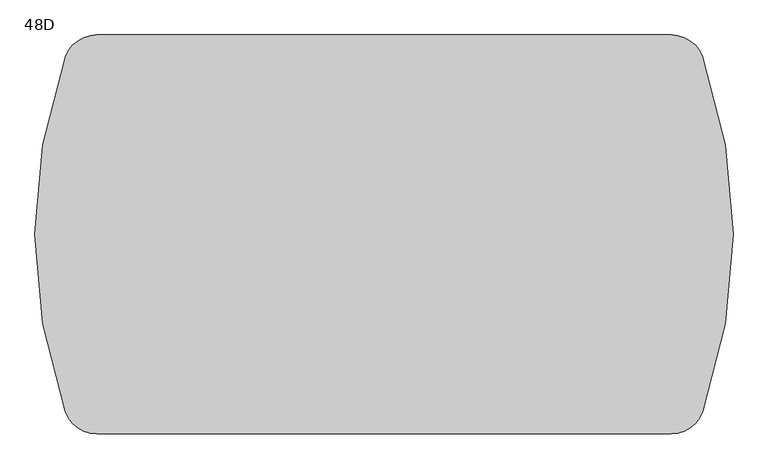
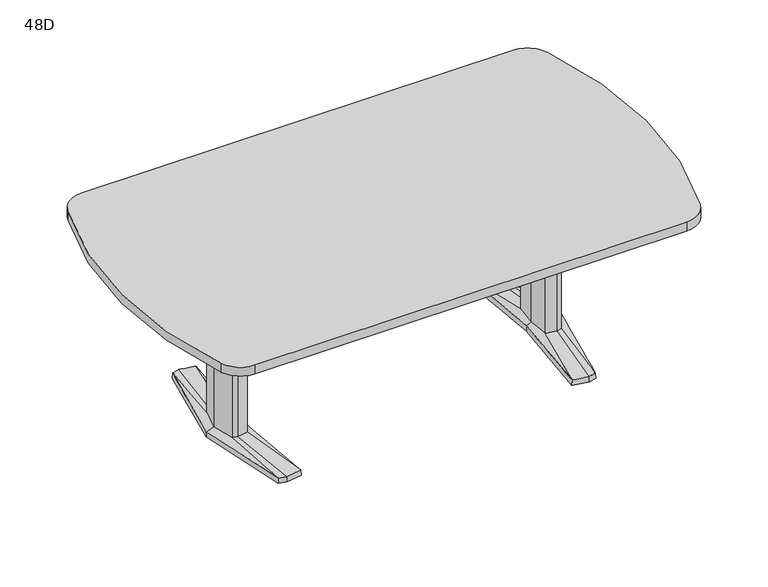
"""IFC4 building model written with IfcOpenShell, lengths in millimetres: furniture geometry, Coalesse_AM_Table_Conference_ETable2_SoftRadiused_84in_AluminiumBase : 48D."""

import ifcopenshell
import ifcopenshell.guid

model = None  # the IFC model being written
_history = None  # IfcOwnerHistory: only IFC2X3 demands one
_inside = {}  # id of a spatial element -> (the spatial element, [elements in it])
_under = {}  # id of a project, library or spatial element -> (it, [spatial elements below it])
_declared = {}  # id of a project -> (the project, [libraries it declares])
_typed = {}  # id of a type object -> (the type object, [elements of that type])
_made_of = {}  # id of a material, layer set ... -> (it, [elements and type objects made of it])


def new_model(schema):
    """Start an empty IFC model of exactly this schema.

    Asked for "IFC4X3", IfcOpenShell would pick the latest addendum, in which some entities
    have other attributes; the version numbers below select the first issue.
    IFC2X3 requires an IfcOwnerHistory on every rooted entity: one is made here for all.
    """
    global model, _history
    if schema == "IFC4X3":
        model = ifcopenshell.file(schema_version=(4, 3, 0, 0))
    else:
        model = ifcopenshell.file(schema=schema)
    _inside.clear()
    _under.clear()
    _declared.clear()
    _typed.clear()
    _made_of.clear()
    _history = None
    if model.schema == "IFC2X3":
        org = make("IfcOrganization", Name="unknown")
        user = make(
            "IfcPersonAndOrganization",
            ThePerson=make("IfcPerson", FamilyName="unknown"),
            TheOrganization=org,
        )
        app = make(
            "IfcApplication",
            ApplicationDeveloper=org,
            Version="unknown",
            ApplicationFullName="unknown",
            ApplicationIdentifier="unknown",
        )
        _history = make(
            "IfcOwnerHistory",
            OwningUser=user,
            OwningApplication=app,
            ChangeAction="ADDED",
            CreationDate=0,
        )
    return model


def make(cls, **values):
    """One entity of the class cls with the attributes given. An attribute that is None is left unset."""
    return model.create_entity(
        cls, **{name: value for name, value in values.items() if value is not None}
    )


def rooted(cls, **values):
    """An entity with a GlobalId (a new one), such as an element, a storey or a relation."""
    return make(cls, GlobalId=ifcopenshell.guid.new(), OwnerHistory=_history, **values)


def si_unit(unit_type, name, prefix=None):
    """IfcSIUnit, for example si_unit("LENGTHUNIT", "METRE", prefix="MILLI")."""
    return make("IfcSIUnit", UnitType=unit_type, Prefix=prefix, Name=name)


def assignment(units):
    """IfcUnitAssignment: the units of a project."""
    return None if units is None else make("IfcUnitAssignment", Units=units)


def point(xyz):
    """IfcCartesianPoint."""
    return None if xyz is None else make("IfcCartesianPoint", Coordinates=xyz)


def direction(xyz):
    """IfcDirection."""
    return None if xyz is None else make("IfcDirection", DirectionRatios=xyz)


def frame(location, z_axis=None, x_axis=None):
    """IfcAxis2Placement3D, a coordinate frame: its origin and axes. An axis left out is left unset."""
    return make(
        "IfcAxis2Placement3D",
        Location=point(location),
        Axis=direction(z_axis),
        RefDirection=direction(x_axis),
    )


def frame_2d(location, x_axis=None):
    """IfcAxis2Placement2D, a coordinate frame in the plane: its origin and x axis."""
    return make(
        "IfcAxis2Placement2D", Location=point(location), RefDirection=direction(x_axis)
    )


def origin():
    """The frame at (0, 0, 0) with its axes left unset."""
    return frame((0.0, 0.0, 0.0))


def place(relative_to, where):
    """IfcLocalPlacement: puts the frame where relative to a parent placement (None: the world)."""
    return make(
        "IfcLocalPlacement", PlacementRelTo=relative_to, RelativePlacement=where
    )


def context(
    kind, dimensions, precision=None, world=None, true_north=None, identifier=None
):
    """IfcGeometricRepresentationContext, for example the 3D "Model" context."""
    return make(
        "IfcGeometricRepresentationContext",
        ContextIdentifier=identifier,
        ContextType=kind,
        CoordinateSpaceDimension=dimensions,
        Precision=precision,
        WorldCoordinateSystem=world,
        TrueNorth=true_north,
    )


def project(units=None, contexts=None):
    """IfcProject with its units and contexts."""
    return rooted(
        "IfcProject",
        Name="project",
        RepresentationContexts=contexts,
        UnitsInContext=assignment(units),
    )


def spatial(cls, under=None, at=None, **own):
    """A site, building, storey or space (cls), placed at a placement, below another one or the project."""
    s = rooted(cls, ObjectPlacement=at, **own)
    if under is not None:
        _under.setdefault(under.id(), (under, []))[1].append(s)
    return s


def polyline(points):
    """IfcPolyline through the points."""
    return make("IfcPolyline", Points=[point(p) for p in points])


def circle_curve(where, radius):
    """IfcCircle in the frame where."""
    return make("IfcCircle", Position=where, Radius=radius)


def trimmed(basis, trim1, trim2, sense, master):
    """IfcTrimmedCurve: the piece of a basis curve between two trims."""
    return make(
        "IfcTrimmedCurve",
        BasisCurve=basis,
        Trim1=trim1,
        Trim2=trim2,
        SenseAgreement=sense,
        MasterRepresentation=master,
    )


def segment(curve, same_sense, transition):
    """IfcCompositeCurveSegment."""
    return make(
        "IfcCompositeCurveSegment",
        Transition=transition,
        SameSense=same_sense,
        ParentCurve=curve,
    )


def composite_curve(segments, self_intersect=None):
    """IfcCompositeCurve: segments joined end to end."""
    return make("IfcCompositeCurve", Segments=segments, SelfIntersect=self_intersect)


def outline(outer, holes=None, kind="AREA"):
    """IfcArbitraryClosedProfileDef: a profile drawn as a closed curve; with holes, ...WithVoids."""
    if holes is None:
        return make("IfcArbitraryClosedProfileDef", ProfileType=kind, OuterCurve=outer)
    return make(
        "IfcArbitraryProfileDefWithVoids",
        ProfileType=kind,
        OuterCurve=outer,
        InnerCurves=holes,
    )


def extrude(swept, where, along, depth):
    """IfcExtrudedAreaSolid: the profile swept, set in the frame where, extruded along a direction by depth."""
    return make(
        "IfcExtrudedAreaSolid",
        SweptArea=swept,
        Position=where,
        ExtrudedDirection=direction(along),
        Depth=depth,
    )


def shape(context_of_items, identifier, shape_type, items):
    """IfcShapeRepresentation: the items that make up one representation, for example the "Body"."""
    return make(
        "IfcShapeRepresentation",
        ContextOfItems=context_of_items,
        RepresentationIdentifier=identifier,
        RepresentationType=shape_type,
        Items=items,
    )


def source(mapping_origin, context_of_items, identifier, shape_type, items):
    """IfcRepresentationMap: a shape defined once, which mapped items show again and again."""
    return make(
        "IfcRepresentationMap",
        MappingOrigin=mapping_origin,
        MappedRepresentation=shape(context_of_items, identifier, shape_type, items),
    )


def transform(
    local_origin,
    x_axis=None,
    y_axis=None,
    z_axis=None,
    scale=None,
    scale2=None,
    scale3=None,
    uniform=True,
):
    """IfcCartesianTransformationOperator3D, or its non-uniform kind. x_axis, y_axis, z_axis: its Axis1, 2, 3."""
    if uniform:
        return make(
            "IfcCartesianTransformationOperator3D",
            Axis1=direction(x_axis),
            Axis2=direction(y_axis),
            LocalOrigin=point(local_origin),
            Scale=scale,
            Axis3=direction(z_axis),
        )
    return make(
        "IfcCartesianTransformationOperator3DnonUniform",
        Axis1=direction(x_axis),
        Axis2=direction(y_axis),
        LocalOrigin=point(local_origin),
        Scale=scale,
        Axis3=direction(z_axis),
        Scale2=scale2,
        Scale3=scale3,
    )


def mapped(mapping_source, mapping_target):
    """IfcMappedItem: shows the shape of a source again, moved by a transform."""
    return make(
        "IfcMappedItem", MappingSource=mapping_source, MappingTarget=mapping_target
    )


def made_of(thing, what):
    """Note that an element or type object is made of a material, layer set ...; save() writes the relation."""
    if what is not None:
        _made_of.setdefault(what.id(), (what, []))[1].append(thing)
    return thing


def element(
    cls,
    number,
    at=None,
    inside=None,
    cuts=None,
    type_object=None,
    material=None,
    context=None,
    identifier="Body",
    shape_type=None,
    held_by="IfcProductDefinitionShape",
    body=None,
    shapes=None,
    **own,
):
    """One element of the class cls, such as IfcWall. Its Tag is "e" and its number.

    at: its placement. inside: the storey or other place that contains it. cuts: it is an
    opening in that element (IfcRelVoidsElement). A single representation is given by context,
    identifier, shape_type and body (its items); several are given by shapes. held_by: the class
    of the entity that holds the representations. save() writes the other relations.
    """
    e = rooted(cls, Tag="e%d" % number, ObjectPlacement=at, **own)
    if body is not None:
        shapes = [shape(context, identifier, shape_type, body)]
    if shapes is not None:
        e.Representation = make(held_by, Representations=shapes)
    if inside is not None:
        _inside.setdefault(inside.id(), (inside, []))[1].append(e)
    if cuts is not None:
        rooted(
            "IfcRelVoidsElement", RelatingBuildingElement=cuts, RelatedOpeningElement=e
        )
    if type_object is not None:
        _typed.setdefault(type_object.id(), (type_object, []))[1].append(e)
    return made_of(e, material)


def aggregate(whole, parts):
    """IfcRelAggregates: a whole, such as a stair, and the parts it consists of."""
    return rooted("IfcRelAggregates", RelatingObject=whole, RelatedObjects=parts)


def save(model, path):
    """Write the relations noted so far, then the file.

    IfcRelAggregates (storeys below a building ...), IfcRelContainedInSpatialStructure (elements
    in a storey), IfcRelDefinesByType, IfcRelAssociatesMaterial and IfcRelDeclares: one each for
    every whole, place, type object, material and project.
    """
    for whole, parts in _under.values():
        aggregate(whole, parts)
    for where, things in _inside.values():
        rooted(
            "IfcRelContainedInSpatialStructure",
            RelatedElements=things,
            RelatingStructure=where,
        )
    for kind, things in _typed.values():
        rooted("IfcRelDefinesByType", RelatedObjects=things, RelatingType=kind)
    for what, things in _made_of.values():
        rooted("IfcRelAssociatesMaterial", RelatedObjects=things, RelatingMaterial=what)
    for by, libraries in _declared.values():
        rooted("IfcRelDeclares", RelatingContext=by, RelatedDefinitions=libraries)
    model.write(path)


def plane_surface(at):
    """IfcPlane: the flat surface through the origin of the frame at, square to its z axis."""
    return make("IfcPlane", Position=at)


def spline_surface(u_degree, v_degree, points, u_multiplicities, v_multiplicities, u_knots, v_knots, weights=None):
    """IfcBSplineSurfaceWithKnots; with weights, IfcRationalBSplineSurfaceWithKnots. points: one row for each step in u."""
    own = dict(
        UDegree=u_degree,
        VDegree=v_degree,
        ControlPointsList=[[point(p) for p in row] for row in points],
        SurfaceForm="UNSPECIFIED",
        UClosed=False,
        VClosed=False,
        SelfIntersect=False,
        UMultiplicities=u_multiplicities,
        VMultiplicities=v_multiplicities,
        UKnots=u_knots,
        VKnots=v_knots,
        KnotSpec="UNSPECIFIED",
    )
    if weights is None:
        return make("IfcBSplineSurfaceWithKnots", **own)
    return make("IfcRationalBSplineSurfaceWithKnots", WeightsData=weights, **own)


def advanced_brep(points, edges, surfaces, faces):
    """IfcAdvancedBrep: a solid bounded by faces that lie on surfaces and meet in shared edges.

    An edge is (start, end): straight between two places in points (the first is 0);
    or (start, end, curve); or (start, end, curve, False) where it runs against its curve.
    A face is (place in surfaces, loops), or (place, loops, False) where it looks against
    its surface's normal. A loop lists edges by number (the first is 1), with a minus sign
    where the edge is run from its end to its start. The first loop is the outer one.
    """
    corners = [point(p) for p in points]
    vertices = [make("IfcVertexPoint", VertexGeometry=c) for c in corners]
    made = []
    for start, end, *more in edges:
        made.append(
            make(
                "IfcEdgeCurve",
                EdgeStart=vertices[start],
                EdgeEnd=vertices[end],
                EdgeGeometry=more[0] if more else make("IfcPolyline", Points=[corners[start], corners[end]]),
                SameSense=more[1] if len(more) > 1 else True,
            )
        )
    hull = []
    for where, loops, *sense in faces:
        bounds = []
        for j, loop in enumerate(loops):
            ring = [make("IfcOrientedEdge", EdgeElement=made[abs(k) - 1], Orientation=k > 0) for k in loop]
            bounds.append(
                make(
                    "IfcFaceOuterBound" if j == 0 else "IfcFaceBound",
                    Bound=make("IfcEdgeLoop", EdgeList=ring),
                    Orientation=True,
                )
            )
        hull.append(make("IfcAdvancedFace", Bounds=bounds, FaceSurface=surfaces[where], SameSense=sense[0] if sense else True))
    return make("IfcAdvancedBrep", Outer=make("IfcClosedShell", CfsFaces=hull))


def furniture_48d_ef67eb33(model_context):
    return source(origin(), model_context, "Body", "SolidModel", [
        advanced_brep(
        [(614.8503471, -379.3768856, 25.4), (644.5756636, -371.5332654, 25.4), (668.2327243, -89.293702, 36.5125), (648.9795254, -94.605478, 36.5125), (606.0521001, -87.0529327, 36.5125), (551.7612538, -368.5071562, 25.4), (597.9364207, 0.0, 36.5125), (579.8389754, 0.3970149, 25.4), (606.0521001, 87.0529327, 36.5125), (551.7615002, 368.5172593, 25.4), (648.9795254, 94.605478, 36.5125), (614.8502233, 379.3769183, 25.4), (668.2327243, 89.293702, 36.5125), (644.7535458, 371.4863276, 25.4), (692.1595251, 0.0, 36.5125), (721.4851663, 0.0003516, 25.4), (578.2468742, 0.3968871, 3.175), (550.06875, 369.8367279, 3.175), (614.9213004, 381.0, 3.175), (646.1093245, 372.7704151, 3.175), (723.10625, 0.0, 3.175), (645.9309817, -372.8174744, 3.175), (614.9213004, -381.0, 3.175), (550.06875, -369.8264415, 3.175), (649.5979264, 107.6121478, 3.175), (594.3065451, 97.8843184, 3.175), (585.1810887, 0.0, 3.175), (594.3065451, -97.8843184, 3.175), (649.5979264, -107.6121478, 3.175), (678.6183473, -99.6056872, 3.175), (705.3083085, 0.0, 3.175), (678.6183473, 99.6056872, 3.175), (613.4286812, 346.9152841, 3.175), (557.7811371, 337.3364985, 3.175), (560.1889918, 324.8641942, 3.175), (612.8600644, 333.9306305, 3.175), (648.6725609, 324.4807859, 3.175), (647.5544526, 337.9105158, 3.175), (613.4286812, -346.9152841, 3.175), (647.5544526, -337.9105158, 3.175), (648.6725609, -324.4807859, 3.175), (612.8600644, -333.9306305, 3.175), (560.1889918, -324.8641942, 3.175), (557.7811371, -337.3364985, 3.175), (649.5979264, 107.6121478, 0.0), (678.6183473, 99.6056872, 0.0), (705.3083085, 0.0, 0.0), (678.6183473, -99.6056872, 0.0), (649.5979264, -107.6121478, 0.0), (594.3065451, -97.8843184, 0.0), (585.1810887, 0.0, 0.0), (594.3065451, 97.8843184, 0.0), (613.4286812, 346.9152841, 0.0), (647.5544526, 337.9105158, 0.0), (648.6725609, 324.4807859, 0.0), (612.8600644, 333.9306305, 0.0), (560.1889918, 324.8641942, 0.0), (557.7811371, 337.3364985, 0.0), (613.4286812, -346.9152841, 0.0), (557.7811371, -337.3364985, 0.0), (560.1889918, -324.8641942, 0.0), (612.8600644, -333.9306305, 0.0), (648.6725609, -324.4807859, 0.0), (647.5544526, -337.9105158, 0.0), (668.2327243, 89.293702, 698.5), (648.9795254, 94.605478, 698.5), (606.0521001, 87.0529327, 698.5), (597.9364207, 0.0, 698.5), (606.0521001, -87.0529327, 698.5), (648.9795254, -94.605478, 698.5), (668.2327243, -89.293702, 698.5), (692.1595251, 0.0, 698.5)],
        [
            (0, 1),
            (1, 2),
            (2, 3),
            (3, 0),
            (3, 4),
            (4, 5),
            (5, 0),
            (4, 6),
            (6, 7),
            (7, 5),
            (6, 8),
            (8, 9),
            (9, 7),
            (8, 10),
            (10, 11),
            (11, 9),
            (10, 12),
            (12, 13),
            (13, 11),
            (12, 14),
            (14, 15),
            (15, 13),
            (1, 15),
            (14, 2),
            (16, 17),
            (17, 18),
            (18, 19),
            (19, 20),
            (20, 21),
            (21, 22),
            (22, 23),
            (23, 16),
            (24, 25),
            (25, 26),
            (26, 27),
            (27, 28),
            (28, 29),
            (29, 30),
            (30, 31),
            (31, 24),
            (32, 33),
            (33, 34),
            (34, 35),
            (35, 36),
            (36, 37),
            (37, 32),
            (38, 39),
            (39, 40),
            (40, 41),
            (41, 42),
            (42, 43),
            (43, 38),
            (16, 7),
            (9, 17),
            (11, 18),
            (13, 19),
            (15, 20),
            (1, 21),
            (0, 22),
            (5, 23),
            (44, 45),
            (45, 46),
            (46, 47),
            (47, 48),
            (48, 49),
            (49, 50),
            (50, 51),
            (51, 44),
            (52, 53),
            (53, 54),
            (54, 55),
            (55, 56),
            (56, 57),
            (57, 52),
            (58, 59),
            (59, 60),
            (60, 61),
            (61, 62),
            (62, 63),
            (63, 58),
            (44, 24),
            (31, 45),
            (30, 46),
            (29, 47),
            (28, 48),
            (27, 49),
            (26, 50),
            (25, 51),
            (52, 32),
            (37, 53),
            (36, 54),
            (35, 55),
            (34, 56),
            (33, 57),
            (58, 38),
            (43, 59),
            (42, 60),
            (41, 61),
            (40, 62),
            (39, 63),
            (64, 65),
            (65, 66),
            (66, 67),
            (67, 68),
            (68, 69),
            (69, 70),
            (70, 71),
            (71, 64),
            (71, 14),
            (12, 64),
            (70, 2),
            (69, 3),
            (68, 4),
            (67, 6),
            (66, 8),
            (65, 10),
        ],
        [
            spline_surface(1, 1, [[(644.5756636, -371.5332654, 25.4), (614.8503471, -379.3768856, 25.4)], [(668.2327243, -89.293702, 36.5125), (648.9795254, -94.605478, 36.5125)]], [2, 2], [2, 2], [0.0, 1.0], [0.0, 1.0]),
            spline_surface(1, 1, [[(614.8503471, -379.3768856, 25.4), (551.7612538, -368.5071562, 25.4)], [(648.9795254, -94.605478, 36.5125), (606.0521001, -87.0529327, 36.5125)]], [2, 2], [2, 2], [0.0, 1.0], [0.0, 1.0]),
            spline_surface(1, 1, [[(551.7612538, -368.5071562, 25.4), (579.8389754, 0.3970149, 25.4)], [(606.0521001, -87.0529327, 36.5125), (597.9364207, 0.0, 36.5125)]], [2, 2], [2, 2], [0.0, 1.0], [0.0, 1.0]),
            spline_surface(1, 1, [[(579.8389754, 0.3970149, 25.4), (551.7615002, 368.5172593, 25.4)], [(597.9364207, 0.0, 36.5125), (606.0521001, 87.0529327, 36.5125)]], [2, 2], [2, 2], [0.0, 1.0], [0.0, 1.0]),
            spline_surface(1, 1, [[(551.7615002, 368.5172593, 25.4), (614.8502233, 379.3769183, 25.4)], [(606.0521001, 87.0529327, 36.5125), (648.9795254, 94.605478, 36.5125)]], [2, 2], [2, 2], [0.0, 1.0], [0.0, 1.0]),
            spline_surface(1, 1, [[(614.8502233, 379.3769183, 25.4), (644.7535458, 371.4863276, 25.4)], [(648.9795254, 94.605478, 36.5125), (668.2327243, 89.293702, 36.5125)]], [2, 2], [2, 2], [0.0, 1.0], [0.0, 1.0]),
            spline_surface(1, 1, [[(644.7535458, 371.4863276, 25.4), (721.4851663, 0.0003516, 25.4)], [(668.2327243, 89.293702, 36.5125), (692.1595251, 0.0, 36.5125)]], [2, 2], [2, 2], [0.0, 1.0], [0.0, 1.0]),
            spline_surface(1, 1, [[(721.4851663, 0.0003516, 25.4), (644.5756636, -371.5332654, 25.4)], [(692.1595251, 0.0, 36.5125), (668.2327243, -89.293702, 36.5125)]], [2, 2], [2, 2], [0.0, 1.0], [0.0, 1.0]),
            plane_surface(frame((615.4216914, 0.0450143, 3.175), z_axis=(0.0, 0.0, -1.0), x_axis=(-0.9669048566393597, -0.2551372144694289, 0.0))),
            plane_surface(frame((564.1578121, 185.1168075, 3.175), z_axis=(-0.9945699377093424, -0.07585840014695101, 0.0712470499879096), x_axis=(-0.07605167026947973, 0.9971038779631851, 0.0))),
            plane_surface(frame((582.4950252, 375.418364, 3.175), z_axis=(-0.1692071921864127, 0.9830019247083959, 0.07124704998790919), x_axis=(0.985506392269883, 0.16963829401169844, 0.0))),
            plane_surface(frame((630.5153124, 376.8852076, 3.175), z_axis=(0.2544888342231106, 0.9644476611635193, 0.07124704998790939), x_axis=(0.9669048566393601, -0.25513721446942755, 0.0))),
            plane_surface(frame((684.6077872, 186.3852076, 3.175), z_axis=(0.9768383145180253, 0.2017690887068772, 0.07124704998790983), x_axis=(0.20228315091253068, -0.9793270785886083, 0.0))),
            plane_surface(frame((684.5186158, -186.4087372, 3.175), z_axis=(0.9767507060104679, -0.20219276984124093, 0.07124704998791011), x_axis=(-0.2027079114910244, -0.9792392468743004, 0.0))),
            plane_surface(frame((630.426141, -376.9087372, 3.175), z_axis=(0.2544888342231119, -0.9644476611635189, 0.0712470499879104), x_axis=(-0.9669048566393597, -0.2551372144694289, 0.0))),
            plane_surface(frame((582.4950252, -375.4132207, 3.175), z_axis=(-0.16935861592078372, -0.982975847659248, 0.07124704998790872), x_axis=(-0.9854802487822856, 0.16979010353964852, 0.0))),
            plane_surface(frame((564.1578121, -184.7147772, 3.175), z_axis=(-0.9945820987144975, 0.07569878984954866, 0.07124704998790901), x_axis=(0.07589165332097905, 0.9971160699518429, 0.0))),
            plane_surface(frame((652.3571479, 106.8509046, 0.0), z_axis=(0.0, 0.0, -1.0000000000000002), x_axis=(-0.9639855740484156, 0.26595453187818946, 0.0))),
            plane_surface(frame((649.5979264, 107.6121478, 3.175), z_axis=(0.26595453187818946, 0.9639855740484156, 0.0), x_axis=(0.0, 0.0, -1.0))),
            plane_surface(frame((678.6183473, 99.6056872, 3.175), z_axis=(0.9659241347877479, 0.2588253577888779, 0.0), x_axis=(0.0, 0.0, -1.0))),
            plane_surface(frame((705.3083085, 0.0, 3.175), z_axis=(0.9659241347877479, -0.2588253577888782, 0.0), x_axis=(0.0, 0.0, -1.0))),
            plane_surface(frame((678.6183473, -99.6056872, 3.175), z_axis=(0.26595453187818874, -0.9639855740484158, 0.0), x_axis=(0.0, 0.0, -1.0))),
            plane_surface(frame((649.5979264, -107.6121478, 3.175), z_axis=(-0.17327617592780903, -0.9848732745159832, 0.0), x_axis=(0.0, 0.0, -1.0))),
            plane_surface(frame((594.3065451, -97.8843184, 3.175), z_axis=(-0.9956824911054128, -0.0928244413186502, 0.0), x_axis=(0.0, 0.0, -1.0))),
            plane_surface(frame((585.1810887, 0.0, 3.175), z_axis=(-0.9956824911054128, 0.09282444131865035, 0.0), x_axis=(0.0, 0.0, -1.0))),
            plane_surface(frame((594.3065451, 97.8843184, 3.175), z_axis=(-0.17327617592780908, 0.984873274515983, 0.0), x_axis=(0.0, 0.0, -1.0))),
            plane_surface(frame((613.4286812, 346.9152841, 3.175), z_axis=(0.25513721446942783, 0.9669048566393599, 0.0), x_axis=(0.0, 0.0, -1.0))),
            plane_surface(frame((647.5544526, 337.9105158, 3.175), z_axis=(0.9965521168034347, 0.0829691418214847, 0.0), x_axis=(0.0, 0.0, -1.0))),
            plane_surface(frame((648.6725609, 324.4807859, 3.175), z_axis=(-0.25513721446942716, -0.9669048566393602, 0.0), x_axis=(0.0, 0.0, -1.0))),
            plane_surface(frame((612.8600644, 333.9306305, 3.175), z_axis=(0.16963829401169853, -0.985506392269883, 0.0), x_axis=(0.0, 0.0, -1.0))),
            plane_surface(frame((560.1889918, 324.8641942, 3.175), z_axis=(-0.9818699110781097, -0.18955600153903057, 0.0), x_axis=(0.0, 0.0, -1.0))),
            plane_surface(frame((557.7811371, 337.3364985, 3.175), z_axis=(-0.16963829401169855, 0.9855063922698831, 0.0), x_axis=(0.0, 0.0, -1.0))),
            plane_surface(frame((613.4286812, -346.9152841, 3.175), z_axis=(-0.1696382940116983, -0.9855063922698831, 0.0), x_axis=(0.0, 0.0, -1.0))),
            plane_surface(frame((557.7811371, -337.3364985, 3.175), z_axis=(-0.9818699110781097, 0.18955600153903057, 0.0), x_axis=(0.0, 0.0, -1.0))),
            plane_surface(frame((560.1889918, -324.8641942, 3.175), z_axis=(0.16963829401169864, 0.985506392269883, 0.0), x_axis=(0.0, 0.0, -1.0))),
            plane_surface(frame((612.8600644, -333.9306305, 3.175), z_axis=(-0.2551372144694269, 0.9669048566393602, 0.0), x_axis=(0.0, 0.0, -1.0))),
            plane_surface(frame((648.6725609, -324.4807859, 3.175), z_axis=(0.9965521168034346, -0.0829691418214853, 0.0), x_axis=(0.0, 0.0, -1.0))),
            plane_surface(frame((647.5544526, -337.9105158, 3.175), z_axis=(0.2551372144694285, -0.9669048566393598, 0.0), x_axis=(0.0, 0.0, -1.0))),
            plane_surface(frame((692.1595251, 0.0, 698.5), z_axis=(0.0, 0.0, 1.0), x_axis=(0.25882535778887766, -0.965924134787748, 0.0))),
            plane_surface(frame((668.2327243, 89.293702, 698.5), z_axis=(0.965924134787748, 0.25882535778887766, 0.0), x_axis=(0.0, 0.0, -1.0))),
            plane_surface(frame((692.1595251, 0.0, 698.5), z_axis=(0.965924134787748, -0.2588253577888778, 0.0), x_axis=(0.0, 0.0, -1.0))),
            plane_surface(frame((668.2327243, -89.293702, 698.5), z_axis=(0.2659545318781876, -0.963985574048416, 0.0), x_axis=(0.0, 0.0, -1.0))),
            plane_surface(frame((648.9795254, -94.605478, 698.5), z_axis=(-0.1732761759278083, -0.9848732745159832, 0.0), x_axis=(0.0, 0.0, -1.0))),
            plane_surface(frame((606.0521001, -87.0529327, 698.5), z_axis=(-0.9956824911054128, -0.0928244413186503, 0.0), x_axis=(0.0, 0.0, -1.0))),
            plane_surface(frame((597.9364207, 0.0, 698.5), z_axis=(-0.9956824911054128, 0.09282444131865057, 0.0), x_axis=(0.0, 0.0, -1.0))),
            plane_surface(frame((606.0521001, 87.0529327, 698.5), z_axis=(-0.17327617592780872, 0.9848732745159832, 0.0), x_axis=(0.0, 0.0, -1.0))),
            plane_surface(frame((648.9795254, 94.605478, 698.5), z_axis=(0.26595453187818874, 0.9639855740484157, 0.0), x_axis=(0.0, 0.0, -1.0))),
        ],
        [
            (0, [[1, 2, 3, 4]]),
            (1, [[5, 6, 7, -4]]),
            (2, [[8, 9, 10, -6]]),
            (3, [[11, 12, 13, -9]]),
            (4, [[14, 15, 16, -12]]),
            (5, [[17, 18, 19, -15]]),
            (6, [[20, 21, 22, -18]]),
            (7, [[23, -21, 24, -2]]),
            (8, [[25, 26, 27, 28, 29, 30, 31, 32], [33, 34, 35, 36, 37, 38, 39, 40], [41, 42, 43, 44, 45, 46], [47, 48, 49, 50, 51, 52]]),
            (9, [[53, -13, 54, -25]]),
            (10, [[-54, -16, 55, -26]]),
            (11, [[-55, -19, 56, -27]]),
            (12, [[-56, -22, 57, -28]]),
            (13, [[-57, -23, 58, -29]]),
            (14, [[-58, -1, 59, -30]]),
            (15, [[-59, -7, 60, -31]]),
            (16, [[-60, -10, -53, -32]]),
            (17, [[61, 62, 63, 64, 65, 66, 67, 68]]),
            (17, [[69, 70, 71, 72, 73, 74]]),
            (17, [[75, 76, 77, 78, 79, 80]]),
            (18, [[81, -40, 82, -61]]),
            (19, [[-82, -39, 83, -62]]),
            (20, [[-83, -38, 84, -63]]),
            (21, [[-84, -37, 85, -64]]),
            (22, [[-85, -36, 86, -65]]),
            (23, [[-86, -35, 87, -66]]),
            (24, [[-87, -34, 88, -67]]),
            (25, [[-88, -33, -81, -68]]),
            (26, [[89, -46, 90, -69]]),
            (27, [[-90, -45, 91, -70]]),
            (28, [[-91, -44, 92, -71]]),
            (29, [[-92, -43, 93, -72]]),
            (30, [[-93, -42, 94, -73]]),
            (31, [[-94, -41, -89, -74]]),
            (32, [[95, -52, 96, -75]]),
            (33, [[-96, -51, 97, -76]]),
            (34, [[-97, -50, 98, -77]]),
            (35, [[-98, -49, 99, -78]]),
            (36, [[-99, -48, 100, -79]]),
            (37, [[-100, -47, -95, -80]]),
            (38, [[101, 102, 103, 104, 105, 106, 107, 108]]),
            (39, [[109, -20, 110, -108]]),
            (40, [[111, -24, -109, -107]]),
            (41, [[112, -3, -111, -106]]),
            (42, [[113, -5, -112, -105]]),
            (43, [[114, -8, -113, -104]]),
            (44, [[115, -11, -114, -103]]),
            (45, [[116, -14, -115, -102]]),
            (46, [[-110, -17, -116, -101]]),
        ],
    ),
        advanced_brep(
        [(-614.8503471, -379.3768856, 25.4), (-648.9795254, -94.605478, 36.5125), (-668.2327243, -89.293702, 36.5125), (-644.5756636, -371.5332654, 25.4), (-551.7612538, -368.5071562, 25.4), (-606.0521001, -87.0529327, 36.5125), (-579.8389754, 0.3970149, 25.4), (-597.9364207, 0.0, 36.5125), (-551.7615002, 368.5172593, 25.4), (-606.0521001, 87.0529327, 36.5125), (-614.8502233, 379.3769183, 25.4), (-648.9795254, 94.605478, 36.5125), (-644.7535458, 371.4863276, 25.4), (-668.2327243, 89.293702, 36.5125), (-721.4851663, 0.0003516, 25.4), (-692.1595251, 0.0, 36.5125), (-578.2468742, 0.3968871, 3.175), (-550.06875, -369.8264415, 3.175), (-614.9213004, -381.0, 3.175), (-645.9309817, -372.8174744, 3.175), (-723.10625, 0.0, 3.175), (-646.1093245, 372.7704151, 3.175), (-614.9213004, 381.0, 3.175), (-550.06875, 369.8367279, 3.175), (-649.5979264, 107.6121478, 3.175), (-678.6183473, 99.6056872, 3.175), (-705.3083085, 0.0, 3.175), (-678.6183473, -99.6056872, 3.175), (-649.5979264, -107.6121478, 3.175), (-594.3065451, -97.8843184, 3.175), (-585.1810887, 0.0, 3.175), (-594.3065451, 97.8843184, 3.175), (-613.4286812, 346.9152841, 3.175), (-647.5544526, 337.9105158, 3.175), (-648.6725609, 324.4807859, 3.175), (-612.8600644, 333.9306305, 3.175), (-560.1889918, 324.8641942, 3.175), (-557.7811371, 337.3364985, 3.175), (-613.4286812, -346.9152841, 3.175), (-557.7811371, -337.3364985, 3.175), (-560.1889918, -324.8641942, 3.175), (-612.8600644, -333.9306305, 3.175), (-648.6725609, -324.4807859, 3.175), (-647.5544526, -337.9105158, 3.175), (-649.5979264, 107.6121478, 0.0), (-594.3065451, 97.8843184, 0.0), (-585.1810887, 0.0, 0.0), (-594.3065451, -97.8843184, 0.0), (-649.5979264, -107.6121478, 0.0), (-678.6183473, -99.6056872, 0.0), (-705.3083085, 0.0, 0.0), (-678.6183473, 99.6056872, 0.0), (-613.4286812, 346.9152841, 0.0), (-557.7811371, 337.3364985, 0.0), (-560.1889918, 324.8641942, 0.0), (-612.8600644, 333.9306305, 0.0), (-648.6725609, 324.4807859, 0.0), (-647.5544526, 337.9105158, 0.0), (-613.4286812, -346.9152841, 0.0), (-647.5544526, -337.9105158, 0.0), (-648.6725609, -324.4807859, 0.0), (-612.8600644, -333.9306305, 0.0), (-560.1889918, -324.8641942, 0.0), (-557.7811371, -337.3364985, 0.0), (-668.2327243, 89.293702, 698.5), (-692.1595251, 0.0, 698.5), (-668.2327243, -89.293702, 698.5), (-648.9795254, -94.605478, 698.5), (-606.0521001, -87.0529327, 698.5), (-597.9364207, 0.0, 698.5), (-606.0521001, 87.0529327, 698.5), (-648.9795254, 94.605478, 698.5)],
        [
            (0, 1),
            (1, 2),
            (2, 3),
            (3, 0),
            (0, 4),
            (4, 5),
            (5, 1),
            (4, 6),
            (6, 7),
            (7, 5),
            (6, 8),
            (8, 9),
            (9, 7),
            (8, 10),
            (10, 11),
            (11, 9),
            (10, 12),
            (12, 13),
            (13, 11),
            (12, 14),
            (14, 15),
            (15, 13),
            (2, 15),
            (14, 3),
            (16, 17),
            (17, 18),
            (18, 19),
            (19, 20),
            (20, 21),
            (21, 22),
            (22, 23),
            (23, 16),
            (24, 25),
            (25, 26),
            (26, 27),
            (27, 28),
            (28, 29),
            (29, 30),
            (30, 31),
            (31, 24),
            (32, 33),
            (33, 34),
            (34, 35),
            (35, 36),
            (36, 37),
            (37, 32),
            (38, 39),
            (39, 40),
            (40, 41),
            (41, 42),
            (42, 43),
            (43, 38),
            (23, 8),
            (6, 16),
            (22, 10),
            (21, 12),
            (20, 14),
            (19, 3),
            (18, 0),
            (17, 4),
            (44, 45),
            (45, 46),
            (46, 47),
            (47, 48),
            (48, 49),
            (49, 50),
            (50, 51),
            (51, 44),
            (52, 53),
            (53, 54),
            (54, 55),
            (55, 56),
            (56, 57),
            (57, 52),
            (58, 59),
            (59, 60),
            (60, 61),
            (61, 62),
            (62, 63),
            (63, 58),
            (51, 25),
            (24, 44),
            (50, 26),
            (49, 27),
            (48, 28),
            (47, 29),
            (46, 30),
            (45, 31),
            (57, 33),
            (32, 52),
            (56, 34),
            (55, 35),
            (54, 36),
            (53, 37),
            (63, 39),
            (38, 58),
            (62, 40),
            (61, 41),
            (60, 42),
            (59, 43),
            (64, 65),
            (65, 66),
            (66, 67),
            (67, 68),
            (68, 69),
            (69, 70),
            (70, 71),
            (71, 64),
            (64, 13),
            (15, 65),
            (2, 66),
            (1, 67),
            (5, 68),
            (7, 69),
            (9, 70),
            (11, 71),
        ],
        [
            spline_surface(1, 1, [[(-644.5756636, -371.5332654, 25.4), (-668.2327243, -89.293702, 36.5125)], [(-614.8503471, -379.3768856, 25.4), (-648.9795254, -94.605478, 36.5125)]], [2, 2], [2, 2], [0.0, 1.0], [0.0, 1.0]),
            spline_surface(1, 1, [[(-614.8503471, -379.3768856, 25.4), (-648.9795254, -94.605478, 36.5125)], [(-551.7612538, -368.5071562, 25.4), (-606.0521001, -87.0529327, 36.5125)]], [2, 2], [2, 2], [0.0, 1.0], [0.0, 1.0]),
            spline_surface(1, 1, [[(-551.7612538, -368.5071562, 25.4), (-606.0521001, -87.0529327, 36.5125)], [(-579.8389754, 0.3970149, 25.4), (-597.9364207, 0.0, 36.5125)]], [2, 2], [2, 2], [0.0, 1.0], [0.0, 1.0]),
            spline_surface(1, 1, [[(-579.8389754, 0.3970149, 25.4), (-597.9364207, 0.0, 36.5125)], [(-551.7615002, 368.5172593, 25.4), (-606.0521001, 87.0529327, 36.5125)]], [2, 2], [2, 2], [0.0, 1.0], [0.0, 1.0]),
            spline_surface(1, 1, [[(-551.7615002, 368.5172593, 25.4), (-606.0521001, 87.0529327, 36.5125)], [(-614.8502233, 379.3769183, 25.4), (-648.9795254, 94.605478, 36.5125)]], [2, 2], [2, 2], [0.0, 1.0], [0.0, 1.0]),
            spline_surface(1, 1, [[(-614.8502233, 379.3769183, 25.4), (-648.9795254, 94.605478, 36.5125)], [(-644.7535458, 371.4863276, 25.4), (-668.2327243, 89.293702, 36.5125)]], [2, 2], [2, 2], [0.0, 1.0], [0.0, 1.0]),
            spline_surface(1, 1, [[(-644.7535458, 371.4863276, 25.4), (-668.2327243, 89.293702, 36.5125)], [(-721.4851663, 0.0003516, 25.4), (-692.1595251, 0.0, 36.5125)]], [2, 2], [2, 2], [0.0, 1.0], [0.0, 1.0]),
            spline_surface(1, 1, [[(-721.4851663, 0.0003516, 25.4), (-692.1595251, 0.0, 36.5125)], [(-644.5756636, -371.5332654, 25.4), (-668.2327243, -89.293702, 36.5125)]], [2, 2], [2, 2], [0.0, 1.0], [0.0, 1.0]),
            plane_surface(frame((-615.4216914, 0.0450143, 3.175), z_axis=(0.0, 0.0, -1.0), x_axis=(0.9669048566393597, -0.2551372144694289, 0.0))),
            plane_surface(frame((-564.1578121, 185.1168075, 3.175), z_axis=(0.9945699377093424, -0.07585840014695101, 0.0712470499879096), x_axis=(0.07605167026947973, 0.9971038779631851, 0.0))),
            plane_surface(frame((-582.4950252, 375.418364, 3.175), z_axis=(0.1692071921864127, 0.9830019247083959, 0.07124704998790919), x_axis=(-0.985506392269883, 0.16963829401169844, 0.0))),
            plane_surface(frame((-630.5153124, 376.8852076, 3.175), z_axis=(-0.2544888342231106, 0.9644476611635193, 0.07124704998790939), x_axis=(-0.9669048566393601, -0.25513721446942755, 0.0))),
            plane_surface(frame((-684.6077872, 186.3852076, 3.175), z_axis=(-0.9768383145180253, 0.2017690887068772, 0.07124704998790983), x_axis=(-0.20228315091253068, -0.9793270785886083, 0.0))),
            plane_surface(frame((-684.5186158, -186.4087372, 3.175), z_axis=(-0.9767507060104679, -0.20219276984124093, 0.07124704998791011), x_axis=(0.2027079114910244, -0.9792392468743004, 0.0))),
            plane_surface(frame((-630.426141, -376.9087372, 3.175), z_axis=(-0.2544888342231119, -0.9644476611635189, 0.0712470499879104), x_axis=(0.9669048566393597, -0.2551372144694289, 0.0))),
            plane_surface(frame((-582.4950252, -375.4132207, 3.175), z_axis=(0.16935861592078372, -0.982975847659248, 0.07124704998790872), x_axis=(0.9854802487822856, 0.16979010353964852, 0.0))),
            plane_surface(frame((-564.1578121, -184.7147772, 3.175), z_axis=(0.9945820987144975, 0.07569878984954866, 0.07124704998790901), x_axis=(-0.07589165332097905, 0.9971160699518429, 0.0))),
            plane_surface(frame((-652.3571479, 106.8509046, 0.0), z_axis=(0.0, 0.0, -1.0000000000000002), x_axis=(0.9639855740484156, 0.26595453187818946, 0.0))),
            plane_surface(frame((-649.5979264, 107.6121478, 3.175), z_axis=(-0.26595453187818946, 0.9639855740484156, 0.0), x_axis=(0.0, 0.0, -1.0))),
            plane_surface(frame((-678.6183473, 99.6056872, 3.175), z_axis=(-0.9659241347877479, 0.2588253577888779, 0.0), x_axis=(0.0, 0.0, -1.0))),
            plane_surface(frame((-705.3083085, 0.0, 3.175), z_axis=(-0.9659241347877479, -0.2588253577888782, 0.0), x_axis=(0.0, 0.0, -1.0))),
            plane_surface(frame((-678.6183473, -99.6056872, 3.175), z_axis=(-0.26595453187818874, -0.9639855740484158, 0.0), x_axis=(0.0, 0.0, -1.0))),
            plane_surface(frame((-649.5979264, -107.6121478, 3.175), z_axis=(0.17327617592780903, -0.9848732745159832, 0.0), x_axis=(0.0, 0.0, -1.0))),
            plane_surface(frame((-594.3065451, -97.8843184, 3.175), z_axis=(0.9956824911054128, -0.0928244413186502, 0.0), x_axis=(0.0, 0.0, -1.0))),
            plane_surface(frame((-585.1810887, 0.0, 3.175), z_axis=(0.9956824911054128, 0.09282444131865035, 0.0), x_axis=(0.0, 0.0, -1.0))),
            plane_surface(frame((-594.3065451, 97.8843184, 3.175), z_axis=(0.17327617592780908, 0.984873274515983, 0.0), x_axis=(0.0, 0.0, -1.0))),
            plane_surface(frame((-613.4286812, 346.9152841, 3.175), z_axis=(-0.25513721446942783, 0.9669048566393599, 0.0), x_axis=(0.0, 0.0, -1.0))),
            plane_surface(frame((-647.5544526, 337.9105158, 3.175), z_axis=(-0.9965521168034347, 0.0829691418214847, 0.0), x_axis=(0.0, 0.0, -1.0))),
            plane_surface(frame((-648.6725609, 324.4807859, 3.175), z_axis=(0.25513721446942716, -0.9669048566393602, 0.0), x_axis=(0.0, 0.0, -1.0))),
            plane_surface(frame((-612.8600644, 333.9306305, 3.175), z_axis=(-0.16963829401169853, -0.985506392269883, 0.0), x_axis=(0.0, 0.0, -1.0))),
            plane_surface(frame((-560.1889918, 324.8641942, 3.175), z_axis=(0.9818699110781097, -0.18955600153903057, 0.0), x_axis=(0.0, 0.0, -1.0))),
            plane_surface(frame((-557.7811371, 337.3364985, 3.175), z_axis=(0.16963829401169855, 0.9855063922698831, 0.0), x_axis=(0.0, 0.0, -1.0))),
            plane_surface(frame((-613.4286812, -346.9152841, 3.175), z_axis=(0.1696382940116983, -0.9855063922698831, 0.0), x_axis=(0.0, 0.0, -1.0))),
            plane_surface(frame((-557.7811371, -337.3364985, 3.175), z_axis=(0.9818699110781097, 0.18955600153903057, 0.0), x_axis=(0.0, 0.0, -1.0))),
            plane_surface(frame((-560.1889918, -324.8641942, 3.175), z_axis=(-0.16963829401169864, 0.985506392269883, 0.0), x_axis=(0.0, 0.0, -1.0))),
            plane_surface(frame((-612.8600644, -333.9306305, 3.175), z_axis=(0.2551372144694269, 0.9669048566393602, 0.0), x_axis=(0.0, 0.0, -1.0))),
            plane_surface(frame((-648.6725609, -324.4807859, 3.175), z_axis=(-0.9965521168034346, -0.0829691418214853, 0.0), x_axis=(0.0, 0.0, -1.0))),
            plane_surface(frame((-647.5544526, -337.9105158, 3.175), z_axis=(-0.2551372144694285, -0.9669048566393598, 0.0), x_axis=(0.0, 0.0, -1.0))),
            plane_surface(frame((-692.1595251, 0.0, 698.5), z_axis=(0.0, 0.0, 1.0), x_axis=(-0.25882535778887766, -0.965924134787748, 0.0))),
            plane_surface(frame((-668.2327243, 89.293702, 698.5), z_axis=(-0.965924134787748, 0.25882535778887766, 0.0), x_axis=(0.0, 0.0, -1.0))),
            plane_surface(frame((-692.1595251, 0.0, 698.5), z_axis=(-0.965924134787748, -0.2588253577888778, 0.0), x_axis=(0.0, 0.0, -1.0))),
            plane_surface(frame((-668.2327243, -89.293702, 698.5), z_axis=(-0.2659545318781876, -0.963985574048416, 0.0), x_axis=(0.0, 0.0, -1.0))),
            plane_surface(frame((-648.9795254, -94.605478, 698.5), z_axis=(0.1732761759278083, -0.9848732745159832, 0.0), x_axis=(0.0, 0.0, -1.0))),
            plane_surface(frame((-606.0521001, -87.0529327, 698.5), z_axis=(0.9956824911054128, -0.0928244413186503, 0.0), x_axis=(0.0, 0.0, -1.0))),
            plane_surface(frame((-597.9364207, 0.0, 698.5), z_axis=(0.9956824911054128, 0.09282444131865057, 0.0), x_axis=(0.0, 0.0, -1.0))),
            plane_surface(frame((-606.0521001, 87.0529327, 698.5), z_axis=(0.17327617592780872, 0.9848732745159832, 0.0), x_axis=(0.0, 0.0, -1.0))),
            plane_surface(frame((-648.9795254, 94.605478, 698.5), z_axis=(-0.26595453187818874, 0.9639855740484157, 0.0), x_axis=(0.0, 0.0, -1.0))),
        ],
        [
            (0, [[1, 2, 3, 4]]),
            (1, [[-1, 5, 6, 7]]),
            (2, [[-6, 8, 9, 10]]),
            (3, [[-9, 11, 12, 13]]),
            (4, [[-12, 14, 15, 16]]),
            (5, [[-15, 17, 18, 19]]),
            (6, [[-18, 20, 21, 22]]),
            (7, [[-3, 23, -21, 24]]),
            (8, [[25, 26, 27, 28, 29, 30, 31, 32], [33, 34, 35, 36, 37, 38, 39, 40], [41, 42, 43, 44, 45, 46], [47, 48, 49, 50, 51, 52]]),
            (9, [[-32, 53, -11, 54]]),
            (10, [[-31, 55, -14, -53]]),
            (11, [[-30, 56, -17, -55]]),
            (12, [[-29, 57, -20, -56]]),
            (13, [[-28, 58, -24, -57]]),
            (14, [[-27, 59, -4, -58]]),
            (15, [[-26, 60, -5, -59]]),
            (16, [[-25, -54, -8, -60]]),
            (17, [[61, 62, 63, 64, 65, 66, 67, 68]]),
            (17, [[69, 70, 71, 72, 73, 74]]),
            (17, [[75, 76, 77, 78, 79, 80]]),
            (18, [[-68, 81, -33, 82]]),
            (19, [[-67, 83, -34, -81]]),
            (20, [[-66, 84, -35, -83]]),
            (21, [[-65, 85, -36, -84]]),
            (22, [[-64, 86, -37, -85]]),
            (23, [[-63, 87, -38, -86]]),
            (24, [[-62, 88, -39, -87]]),
            (25, [[-61, -82, -40, -88]]),
            (26, [[-74, 89, -41, 90]]),
            (27, [[-73, 91, -42, -89]]),
            (28, [[-72, 92, -43, -91]]),
            (29, [[-71, 93, -44, -92]]),
            (30, [[-70, 94, -45, -93]]),
            (31, [[-69, -90, -46, -94]]),
            (32, [[-80, 95, -47, 96]]),
            (33, [[-79, 97, -48, -95]]),
            (34, [[-78, 98, -49, -97]]),
            (35, [[-77, 99, -50, -98]]),
            (36, [[-76, 100, -51, -99]]),
            (37, [[-75, -96, -52, -100]]),
            (38, [[101, 102, 103, 104, 105, 106, 107, 108]]),
            (39, [[-101, 109, -22, 110]]),
            (40, [[-102, -110, -23, 111]]),
            (41, [[-103, -111, -2, 112]]),
            (42, [[-104, -112, -7, 113]]),
            (43, [[-105, -113, -10, 114]]),
            (44, [[-106, -114, -13, 115]]),
            (45, [[-107, -115, -16, 116]]),
            (46, [[-108, -116, -19, -109]]),
        ],
    ),
        extrude(outline(polyline([(96.8375, 698.5), (103.1875, 698.5), (103.1875, 476.25), (-103.1875, 476.25), (-103.1875, 698.5), (-96.8375, 698.5), (-96.8375, 482.6), (96.8375, 482.6), (96.8375, 698.5)])), frame((-597.9364207, 0.0, 0.0), z_axis=(1.0, 0.0, 0.0), x_axis=(0.0, 1.0, 0.0)), (0.0, 0.0, 1.0), 1195.8728415),
        extrude(outline(composite_curve([segment(polyline([(-973.4457112, -541.8652296), (-974.2015465, -539.7273037)]), True, "CONTINUOUS"), segment(trimmed(circle_curve(frame_2d((552.45, 5.18e-05)), 1619.25), [point((-974.2015465, -539.7273037))], [point((-974.1956256, 539.7441544))], False, "CARTESIAN"), True, "CONTINUOUS"), segment(polyline([(-974.1956256, 539.7441544), (-973.4453442, 541.8662966)]), True, "CONTINUOUS"), segment(trimmed(circle_curve(frame_2d((-877.6558148, 508.0)), 101.6), [point((-973.4453442, 541.8662966))], [point((-877.6558148, 609.6))], False, "CARTESIAN"), True, "CONTINUOUS"), segment(polyline([(-877.6558148, 609.6), (877.6557872, 609.6)]), True, "CONTINUOUS"), segment(trimmed(circle_curve(frame_2d((877.6557872, 507.9999756)), 101.6000244), [point((877.6557872, 609.6))], [point((973.4457112, 541.8652296))], False, "CARTESIAN"), True, "CONTINUOUS"), segment(polyline([(973.4457112, 541.8652296), (974.2015465, 539.7273037)]), True, "CONTINUOUS"), segment(trimmed(circle_curve(frame_2d((-552.45, -5.18e-05)), 1619.25), [point((974.2015465, 539.7273037))], [point((974.1956256, -539.7441544))], False, "CARTESIAN"), True, "CONTINUOUS"), segment(polyline([(974.1956256, -539.7441544), (973.4453442, -541.8662966)]), True, "CONTINUOUS"), segment(trimmed(circle_curve(frame_2d((877.6558148, -508.0)), 101.6), [point((973.4453442, -541.8662966))], [point((877.6558148, -609.6))], False, "CARTESIAN"), True, "CONTINUOUS"), segment(polyline([(877.6558148, -609.6), (-877.6557872, -609.6)]), True, "CONTINUOUS"), segment(trimmed(circle_curve(frame_2d((-877.6557872, -507.9999756)), 101.6000244), [point((-877.6557872, -609.6))], [point((-973.4457112, -541.8652296))], False, "CARTESIAN"), True, "CONTINUOUS")], self_intersect=False)), frame((0.0, 0.0, 698.5), z_axis=(0.0, 0.0, 1.0), x_axis=(1.0, 0.0, 0.0)), (0.0, 0.0, 1.0), 38.1),
    ])


if __name__ == "__main__":
    model = new_model("IFC4")
    model_context = context("Model", 3, world=origin())
    ifc_project = project(units=[si_unit("LENGTHUNIT", "METRE", prefix="MILLI")], contexts=[model_context])
    site = spatial("IfcSite", under=ifc_project)
    building = spatial("IfcBuilding", under=site)
    placement = place(None, origin())
    furniture_48d_shape = furniture_48d_ef67eb33(model_context)
    element("IfcFurniture", 1, ObjectType="Coalesse_AM_Table_Conference_ETable2_SoftRadiused_84in_AluminiumBase : 48D", at=placement, inside=building, context=model_context, shape_type="MappedRepresentation", body=[
        mapped(furniture_48d_shape, transform((0.0, 0.0, 0.0), x_axis=(1.0, 0.0, 0.0), y_axis=(0.0, 1.0, 0.0), z_axis=(0.0, 0.0, 1.0))),
    ])
    save(model, "model.ifc")
